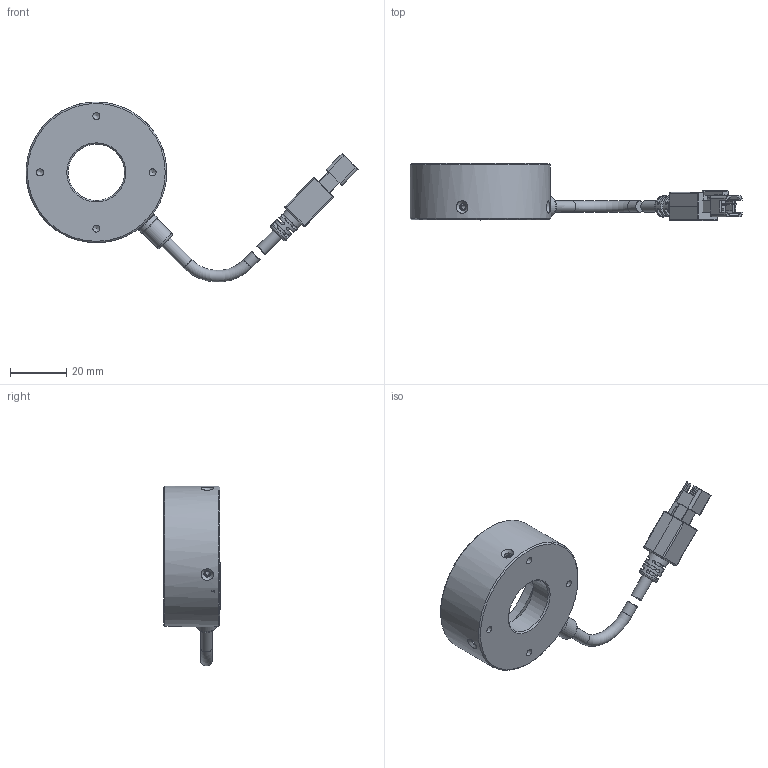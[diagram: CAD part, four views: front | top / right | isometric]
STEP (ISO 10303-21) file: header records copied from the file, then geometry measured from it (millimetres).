
FILE_DESCRIPTION (( 'STEP AP203' ), '1' );
FILE_NAME ('OPT-RI5060-X-V5.0尨砩芞.STEP', '2024-12-12T01:43:25', ( '' ), ( '' ), 'SwSTEP 2.0', 'SolidWorks 2016', '' );
FILE_SCHEMA (( 'CONFIG_CONTROL_DESIGN' ));
Length unit declared in the file: millimetre
Products named in the file (1): OPT-RI5060-X-V5.0尨砩芞
Bounding box: 117.95 x 20.2 x 63.94 mm (x, y, z)
Volume: 26107 mm3; surface area: 13795.2 mm2
Topology: 7 solids, 7 shells, 365 faces, 940 edges, 596 vertices
Faces by surface type: plane 179, cylinder 120, cone 30, bspline 25, torus 11
Full cylindrical faces by diameter (mm): 1.05 x2, 1.1 x6, 1.6 x4, 2.4 x4, 2.5 x4, 3.5 x1, 4.1 x4, 5.8 x1, 7.5 x2, 8 x1, 20 x1, 41.8 x1, 50 x1
Entity records: 11747 total; most frequent: CARTESIAN_POINT 3412, ORIENTED_EDGE 1666, DIRECTION 1662, EDGE_CURVE 833, AXIS2_PLACEMENT_3D 584, VERTEX_POINT 562, LINE 494, VECTOR 494
